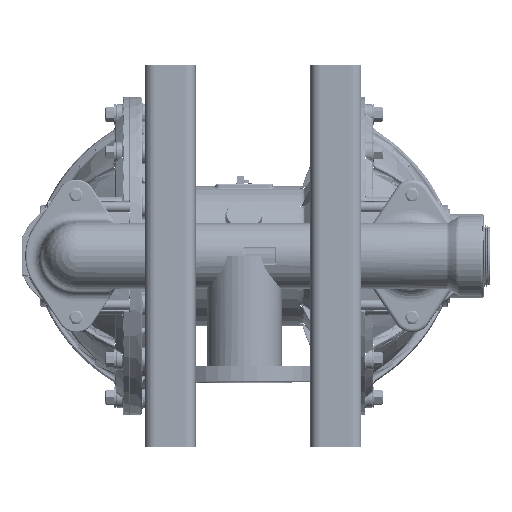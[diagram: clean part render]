
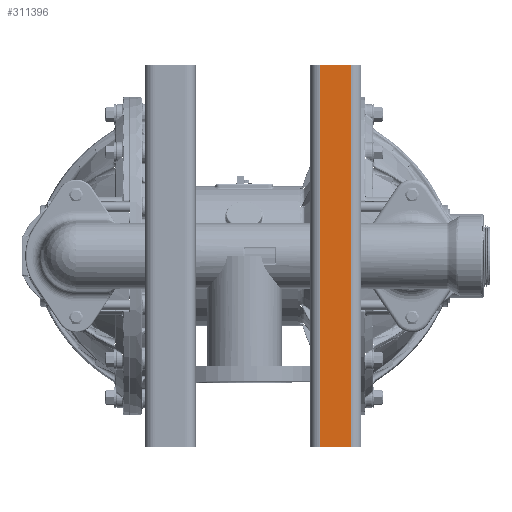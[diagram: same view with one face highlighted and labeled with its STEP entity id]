
A CAD part, front view. The second image highlights one B-rep face of the part: STEP entity #311396.
In plain terms, the highlighted planar face has unit normal (0, -1, 0).
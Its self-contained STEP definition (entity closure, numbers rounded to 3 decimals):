
#311203=DIRECTION('',(1.,0.,0.));
#311204=VECTOR('',#311203,1.2);
#311205=CARTESIAN_POINT('',(2.995,-15.365,-7.5));
#311206=LINE('',#311205,#311204);
#311224=DIRECTION('',(0.,0.,-1.));
#311225=VECTOR('',#311224,15.);
#311226=CARTESIAN_POINT('',(2.995,-15.365,7.5));
#311227=LINE('',#311226,#311225);
#311228=DIRECTION('',(0.,0.,-1.));
#311229=VECTOR('',#311228,15.);
#311230=CARTESIAN_POINT('',(4.195,-15.365,7.5));
#311231=LINE('',#311230,#311229);
#311262=DIRECTION('',(1.,0.,0.));
#311263=VECTOR('',#311262,1.2);
#311264=CARTESIAN_POINT('',(2.995,-15.365,7.5));
#311265=LINE('',#311264,#311263);
#311300=CARTESIAN_POINT('',(2.995,-15.365,-7.5));
#311302=VERTEX_POINT('',#311300);
#311306=CARTESIAN_POINT('',(2.995,-15.365,7.5));
#311307=VERTEX_POINT('',#311306);
#311309=CARTESIAN_POINT('',(4.195,-15.365,-7.5));
#311311=VERTEX_POINT('',#311309);
#311312=CARTESIAN_POINT('',(4.195,-15.365,7.5));
#311313=VERTEX_POINT('',#311312);
#311383=CARTESIAN_POINT('',(2.595,-15.365,-7.5));
#311384=DIRECTION('',(0.,-1.,0.));
#311385=DIRECTION('',(1.,0.,0.));
#311386=AXIS2_PLACEMENT_3D('',#311383,#311384,#311385);
#311387=PLANE('',#311386);
#311389=ORIENTED_EDGE('',*,*,#311388,.F.);
#311391=ORIENTED_EDGE('',*,*,#311390,.T.);
#311392=ORIENTED_EDGE('',*,*,#311375,.T.);
#311393=ORIENTED_EDGE('',*,*,#311331,.F.);
#311394=EDGE_LOOP('',(#311389,#311391,#311392,#311393));
#311395=FACE_OUTER_BOUND('',#311394,.F.);
#311396=ADVANCED_FACE('',(#311395),#311387,.T.);
#311331=EDGE_CURVE('',#311302,#311311,#311206,.T.);
#311375=EDGE_CURVE('',#311313,#311311,#311231,.T.);
#311388=EDGE_CURVE('',#311307,#311302,#311227,.T.);
#311390=EDGE_CURVE('',#311307,#311313,#311265,.T.);
